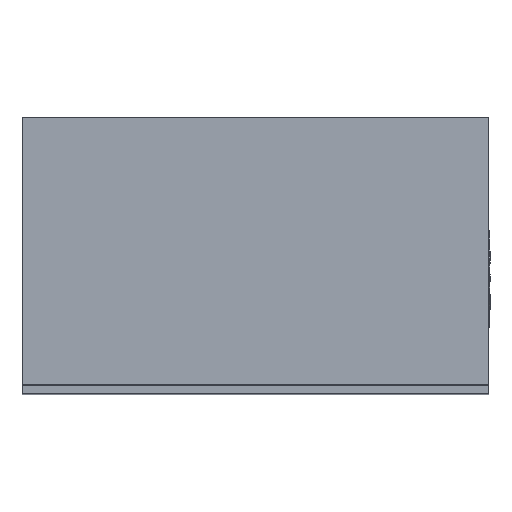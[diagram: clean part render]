
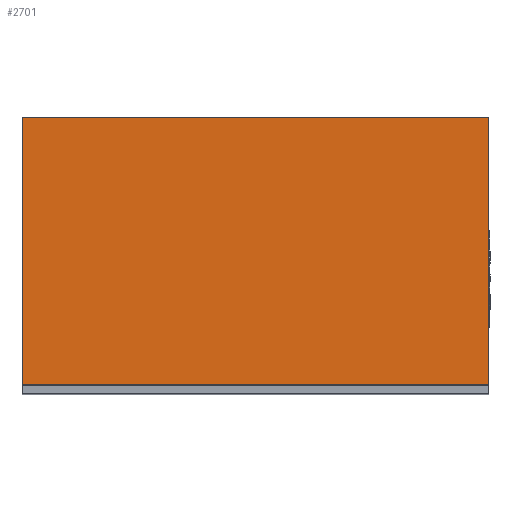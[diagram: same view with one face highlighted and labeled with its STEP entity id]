
A CAD part, top view. The second image highlights one B-rep face of the part: STEP entity #2701.
In plain terms, the highlighted planar face has unit normal (0, 0, 1).
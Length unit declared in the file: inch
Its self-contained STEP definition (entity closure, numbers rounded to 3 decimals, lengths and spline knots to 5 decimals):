
#250=FACE_OUTER_BOUND('',#404,.T.);
#404=EDGE_LOOP('',(#1798,#1799,#1800,#1801));
#570=LINE('',#3418,#844);
#571=LINE('',#3420,#845);
#572=LINE('',#3422,#846);
#573=LINE('',#3423,#847);
#844=VECTOR('',#2968,0.3937);
#845=VECTOR('',#2969,0.3937);
#846=VECTOR('',#2970,0.3937);
#847=VECTOR('',#2971,0.3937);
#1118=VERTEX_POINT('',#3416);
#1119=VERTEX_POINT('',#3417);
#1120=VERTEX_POINT('',#3419);
#1121=VERTEX_POINT('',#3421);
#1390=EDGE_CURVE('',#1118,#1119,#570,.T.);
#1391=EDGE_CURVE('',#1120,#1118,#571,.T.);
#1392=EDGE_CURVE('',#1120,#1121,#572,.T.);
#1393=EDGE_CURVE('',#1121,#1119,#573,.T.);
#1798=ORIENTED_EDGE('',*,*,#1390,.F.);
#1799=ORIENTED_EDGE('',*,*,#1391,.F.);
#1800=ORIENTED_EDGE('',*,*,#1392,.T.);
#1801=ORIENTED_EDGE('',*,*,#1393,.T.);
#2614=PLANE('',#2877);
#2701=ADVANCED_FACE('',(#250),#2614,.F.);
#2877=AXIS2_PLACEMENT_3D('',#3415,#2966,#2967);
#2966=DIRECTION('center_axis',(0.,0.,
-1.));
#2967=DIRECTION('ref_axis',(0.,-1.,0.));
#2968=DIRECTION('',(0.,1.,0.));
#2969=DIRECTION('',(-1.,0.,0.));
#2970=DIRECTION('',(0.,1.,0.));
#2971=DIRECTION('',(-1.,0.,0.));
#3415=CARTESIAN_POINT('Origin',(0.01594,0.0189,0.0316));
#3416=CARTESIAN_POINT('',(-0.01594,0.00059,0.0316));
#3417=CARTESIAN_POINT('',(-0.01594,0.0189,0.0316));
#3418=CARTESIAN_POINT('',(-0.01594,0.01432,0.0316));
#3419=CARTESIAN_POINT('',(0.01594,0.00059,0.0316));
#3420=CARTESIAN_POINT('',(0.01594,0.00059,0.0316));
#3421=CARTESIAN_POINT('',(0.01594,0.0189,0.0316));
#3422=CARTESIAN_POINT('',(0.01594,0.00059,0.0316));
#3423=CARTESIAN_POINT('',(0.01594,0.0189,0.0316));
